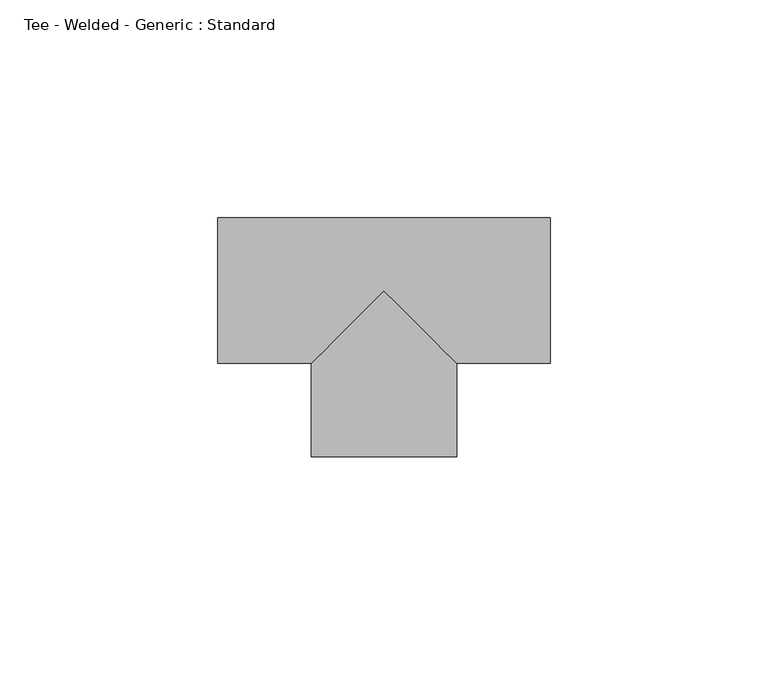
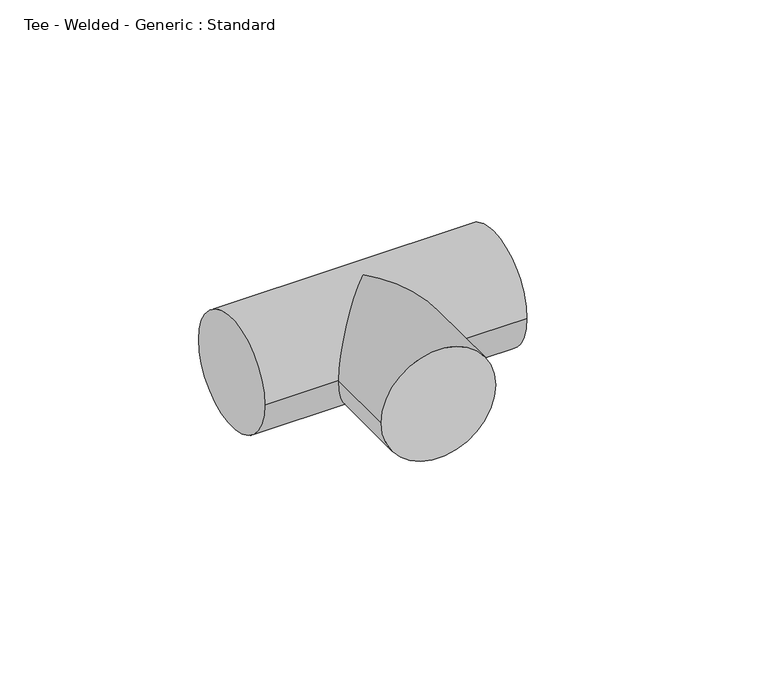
"""IFC4 building model written with IfcOpenShell, lengths in millimetres: pipe fitting geometry, Tee - Welded - Generic : Standard."""

from ifc_helpers import new_model, si_unit, frame, origin, place, context, project, spatial, circle_curve, ellipse_curve, source, transform, mapped, element, save
from ifc_brep_helpers import plane_surface, cylinder_surface, advanced_brep


def tee_welded_generic_standard_3667c5b0(model_context):
    return source(origin(), model_context, "Body", "AdvancedBrep", [
        advanced_brep(
        [(-38.1, -16.66875, 0.0), (-38.1, 16.66875, 0.0), (38.1, -16.66875, 0.0), (38.1, 16.66875, 0.0), (-16.6687486, -16.66875, 0.0), (0.0, 0.0, 16.66875), (16.6687514, -16.66875, 0.0), (0.0, 0.0, -16.66875), (-16.6687468, -38.1000014, 0.0), (16.6687532, -38.0999986, 0.0)],
        [
            (0, 1, circle_curve(frame((-38.1, 0.0, 0.0), z_axis=(-1.0, 0.0, 0.0), x_axis=(0.0, 1.0, 0.0)), 16.66875)),
            (1, 0, circle_curve(frame((-38.1, 0.0, 0.0), z_axis=(-1.0, 0.0, 0.0), x_axis=(0.0, 1.0, 0.0)), 16.66875)),
            (2, 3, circle_curve(frame((38.1, 0.0, 0.0), z_axis=(1.0, 0.0, 0.0), x_axis=(0.0, 1.0, 0.0)), 16.66875)),
            (3, 2, circle_curve(frame((38.1, 0.0, 0.0), z_axis=(1.0, 0.0, 0.0), x_axis=(0.0, 1.0, 0.0)), 16.66875)),
            (0, 4),
            (4, 5, ellipse_curve(frame((0.0, 0.0, 0.0), z_axis=(-0.7071068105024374, 0.7071067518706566, 0.0), x_axis=(-0.7071067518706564, -0.7071068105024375, 0.0)), 23.5731713, 16.66875)),
            (5, 6, ellipse_curve(frame((0.0, 0.0, 0.0), z_axis=(0.7071067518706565, 0.7071068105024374, 0.0), x_axis=(-0.7071068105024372, 0.7071067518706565, 0.0)), 23.5731733, 16.66875)),
            (6, 2),
            (3, 1),
            (6, 7, ellipse_curve(frame((0.0, 0.0, 0.0), z_axis=(0.7071067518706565, 0.7071068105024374, 0.0), x_axis=(-0.7071068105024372, 0.7071067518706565, 0.0)), 23.5731733, 16.66875)),
            (7, 4, ellipse_curve(frame((0.0, 0.0, 0.0), z_axis=(-0.7071068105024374, 0.7071067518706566, 0.0), x_axis=(-0.7071067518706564, -0.7071068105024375, 0.0)), 23.5731713, 16.66875)),
            (8, 9, circle_curve(frame((3.2e-06, -38.1, 0.0), z_axis=(8.291786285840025e-08, -0.9999999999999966, 0.0), x_axis=(0.9999999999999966, 8.291786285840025e-08, 0.0)), 16.66875)),
            (9, 8, circle_curve(frame((3.2e-06, -38.1, 0.0), z_axis=(8.291786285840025e-08, -0.9999999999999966, 0.0), x_axis=(0.9999999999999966, 8.291786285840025e-08, 0.0)), 16.66875)),
            (9, 6),
            (4, 8),
        ],
        [
            plane_surface(frame((-38.1, 0.0, 0.0), z_axis=(-1.0, 0.0, 0.0), x_axis=(0.0, 0.0, 1.0))),
            plane_surface(frame((38.1, 0.0, 0.0), z_axis=(1.0, 0.0, 0.0), x_axis=(0.0, 0.0, 1.0))),
            cylinder_surface(frame((-38.1, 0.0, 0.0), z_axis=(-1.0, 0.0, 0.0), x_axis=(0.0, 1.0, 0.0)), 16.66875),
            plane_surface(frame((3.2e-06, -38.1, 0.0), z_axis=(8.291786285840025e-08, -0.9999999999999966, 0.0), x_axis=(0.0, 0.0, 1.0))),
            cylinder_surface(frame((0.0, 0.0, 0.0), z_axis=(-8.291786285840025e-08, 0.9999999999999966, 0.0), x_axis=(0.9999999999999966, 8.291786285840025e-08, 0.0)), 16.66875),
        ],
        [
            (0, [[1, 2]]),
            (1, [[3, 4]]),
            (2, [[-1, 5, 6, 7, 8, -4, 9]]),
            (2, [[-2, -9, -3, -8, 10, 11, -5]]),
            (3, [[12, 13]]),
            (4, [[-13, 14, -7, -6, 15]]),
            (4, [[-12, -15, -11, -10, -14]]),
        ],
    ),
    ])


if __name__ == "__main__":
    model = new_model("IFC4")
    model_context = context("Model", 3, world=origin())
    ifc_project = project(units=[si_unit("LENGTHUNIT", "METRE", prefix="MILLI")], contexts=[model_context])
    site = spatial("IfcSite", under=ifc_project)
    building = spatial("IfcBuilding", under=site)
    placement = place(None, origin())
    tee_welded_generic_standard_shape = tee_welded_generic_standard_3667c5b0(model_context)
    element("IfcPipeFitting", 1, ObjectType="Tee - Welded - Generic : Standard", at=placement, inside=building, context=model_context, shape_type="MappedRepresentation", body=[
        mapped(tee_welded_generic_standard_shape, transform((0.0, 0.0, 0.0), x_axis=(1.0, 0.0, 0.0), y_axis=(0.0, 1.0, 0.0), z_axis=(0.0, 0.0, 1.0))),
    ])
    save(model, "model.ifc")
